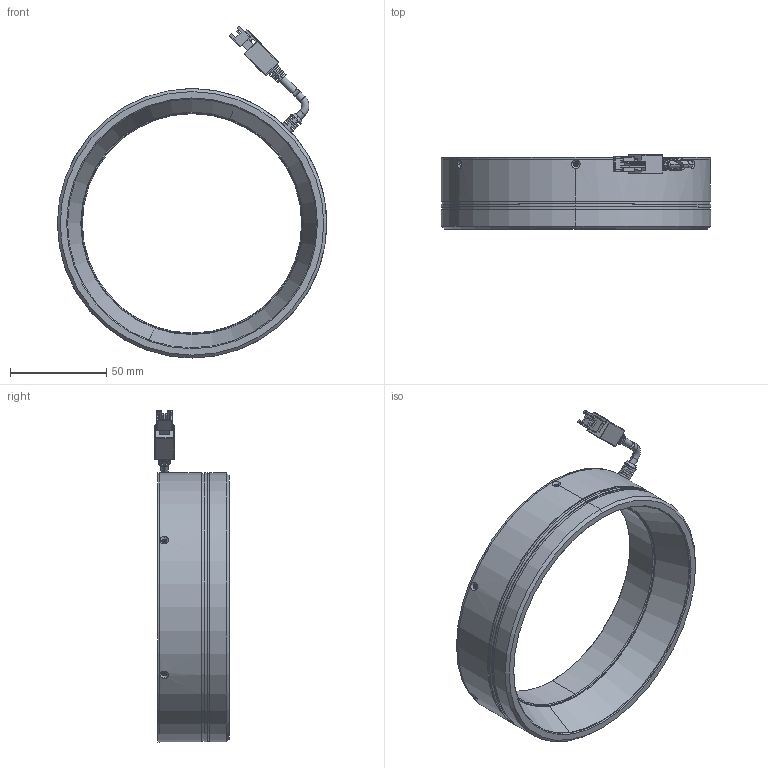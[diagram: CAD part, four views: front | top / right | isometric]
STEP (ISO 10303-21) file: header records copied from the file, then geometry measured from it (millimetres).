
FILE_DESCRIPTION (( 'STEP AP203' ), '1' );
FILE_NAME ('PPX-RIF140-W.STEP', '2022-05-04T03:24:00', ( 'China' ), ( 'Home' ), 'SwSTEP 2.0', 'SolidWorks 2016', '' );
FILE_SCHEMA (( 'CONFIG_CONTROL_DESIGN' ));
Length unit declared in the file: millimetre
Products named in the file (6): PPX-RIF140俋褲; PPX-RIF140PCB-7; 謗郋萇埭盄 ㄗ譫傷ㄘ; PPX-RIF140-W; PPX-RIF140菁釱; PPX-RIF140-MCS
Assembly tree (5 placements, depth 2):
  PPX-RIF140-W
    PPX-RIF140菁釱
    PPX-RIF140-MCS
    PPX-RIF140俋褲
    PPX-RIF140PCB-7
    謗郋萇埭盄 ㄗ譫傷ㄘ
Bounding box: 140 x 38.65 x 172.59 mm (x, y, z)
Volume: 122431.2 mm3; surface area: 104568.1 mm2
Topology: 6 solids, 6 shells, 1634 faces, 4183 edges, 2568 vertices
Faces by surface type: cylinder 854, plane 356, sphere 354, cone 50, torus 18, bspline 2
Entity records: 46149 total; most frequent: DIRECTION 8772, CARTESIAN_POINT 8332, ORIENTED_EDGE 6918, AXIS2_PLACEMENT_3D 3744, EDGE_CURVE 3459, VERTEX_POINT 2218, CIRCLE 2104, EDGE_LOOP 2035
